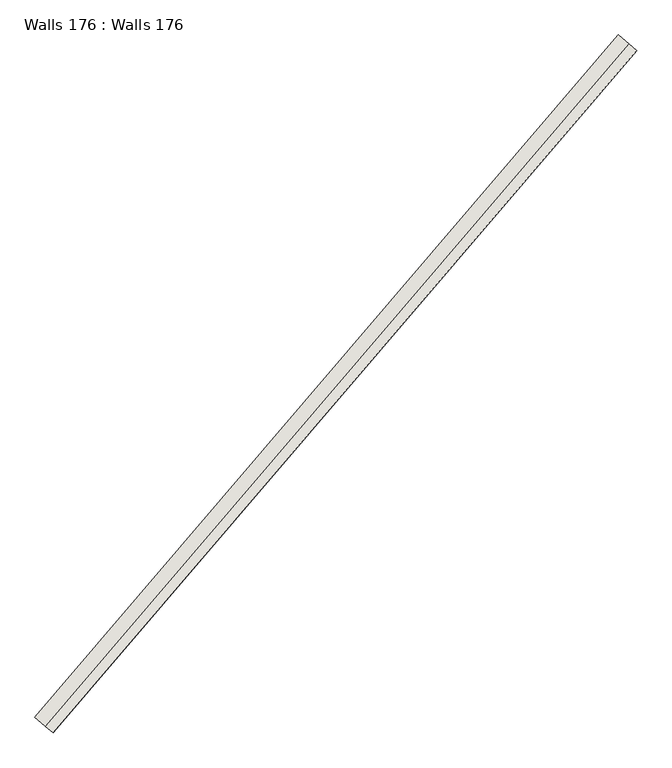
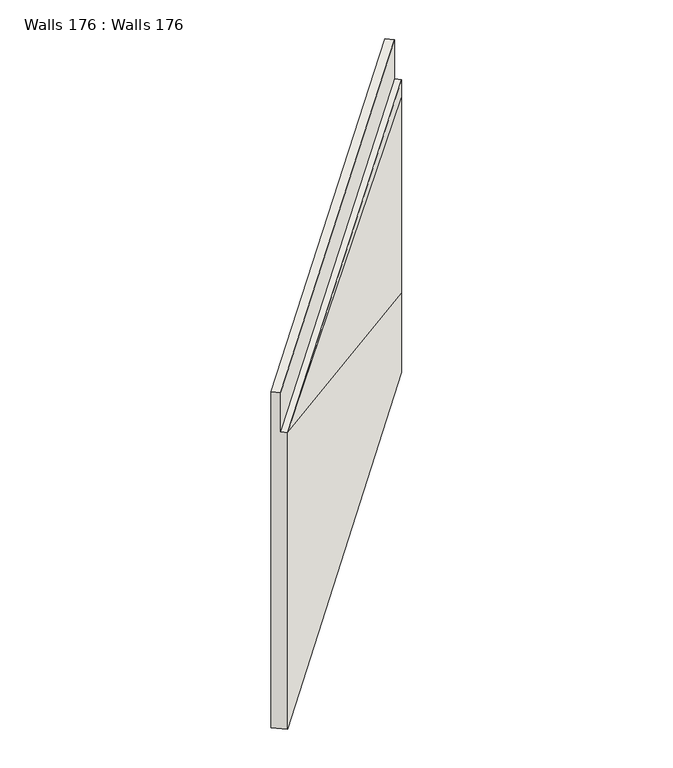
"""IFC4 building model written with IfcOpenShell, lengths in millimetres: wall geometry, Walls 176 : Walls 176."""

from ifc_helpers import new_model, si_unit, frame, origin, place, context, project, spatial, source, transform, mapped, element, save
from ifc_brep_helpers import plane_surface, spline_surface, advanced_brep


def walls_176_walls_176_a7ff1896(model_context):
    return source(origin(), model_context, "Body", "AdvancedBrep", [
        advanced_brep(
        [(149185.6634706, 20272.2288779, 640490.0), (149185.6634706, 20272.2288779, 648060.0), (149071.6988215, 20369.7586618, 648060.0), (149071.6988215, 20369.7586618, 649060.0), (148919.7459559, 20499.7983736, 649060.0), (148919.7459559, 20499.7983736, 640490.0), (157643.8929977, 30155.1621858, 640647.5179984), (157377.9754826, 30382.7316819, 640647.5179984), (157378.0286661, 30382.6861679, 642661.5063563), (157378.0286661, 30382.6861679, 647647.5179985), (157377.6748463, 30382.9889633, 648113.2145854), (157377.6748464, 30382.9889633, 649113.2145854), (157529.6277121, 30252.9492513, 649113.2145854), (157529.6277121, 30252.9492513, 648113.2145854), (157643.5923608, 30155.4194679, 648113.2145854), (157643.9461812, 30155.116672, 647647.5179985), (157643.9082986, 30155.1490915, 642661.5063563)],
        [
            (0, 1),
            (1, 2),
            (2, 3),
            (3, 4),
            (4, 5),
            (5, 0),
            (6, 7),
            (7, 8),
            (8, 9),
            (9, 10),
            (10, 11),
            (11, 12),
            (12, 13),
            (13, 14),
            (14, 15),
            (15, 16),
            (16, 6),
            (16, 1),
            (0, 6),
            (15, 1),
            (14, 1),
            (13, 2),
            (12, 3),
            (11, 4),
            (10, 4),
            (9, 4),
            (8, 5),
            (7, 5),
        ],
        [
            plane_surface(frame((149059.0360827, 20380.5953044, 645870.0), z_axis=(-0.6501985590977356, -0.7597643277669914, 0.0), x_axis=(0.7597643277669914, -0.6501985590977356, 0.0))),
            plane_surface(frame((157502.1797973, 30276.4388967, 645861.7416031), z_axis=(0.6501985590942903, 0.7597643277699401, 0.0), x_axis=(7.597279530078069e-06, -6.501674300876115e-06, 0.9999999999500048))),
            spline_surface(1, 1, [[(157643.8929977, 30155.1621858, 640647.5179984), (149185.6634706, 20272.2288779, 640490.0)], [(157643.9082986, 30155.1490915, 642661.5063563), (149185.6634706, 20272.2288779, 648060.0)]], [2, 2], [2, 2], [0.0, 1.0], [0.0, 1.0]),
            plane_surface(frame((157643.9272399, 30155.1328817, 645154.5121774), z_axis=(0.7597410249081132, -0.6502257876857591, -1.000020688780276e-05), x_axis=(7.5978004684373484e-06, -6.502120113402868e-06, 0.999999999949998))),
            plane_surface(frame((157643.769271, 30155.2680699, 647880.366292), z_axis=(0.7597614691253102, -0.6502011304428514, 0.0010000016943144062), x_axis=(-0.0007597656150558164, 0.0006501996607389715, 0.9999994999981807))),
            plane_surface(frame((157586.6100364, 30204.1843596, 648113.2145854), z_axis=(-0.0026598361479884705, -0.003108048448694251, 0.9999916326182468), x_axis=(-0.7597643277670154, 0.6501985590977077, 0.0))),
            plane_surface(frame((157529.6277121, 30252.9492513, 648613.2145854), z_axis=(0.7597645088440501, -0.6501983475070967, 0.0), x_axis=(0.0, 0.0, 1.0))),
            plane_surface(frame((157453.6512793, 30317.9691073, 649113.2145854), z_axis=(-0.002659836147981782, -0.003108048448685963, 0.9999916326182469), x_axis=(-0.7597643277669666, 0.6501985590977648, 0.0))),
            plane_surface(frame((157377.6748464, 30382.9889633, 648613.2145854), z_axis=(-0.75976450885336, 0.6501983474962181, 0.0), x_axis=(0.0, 0.0, -1.0))),
            plane_surface(frame((157377.8517562, 30382.8375657, 647880.366292), z_axis=(-0.7598114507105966, 0.6501427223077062, -0.00099999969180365), x_axis=(0.0007597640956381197, -0.0006501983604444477, -0.9999995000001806))),
            plane_surface(frame((157378.0286661, 30382.6861679, 645154.5121774), z_axis=(-0.7597412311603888, 0.6502255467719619, 0.0), x_axis=(0.0, 0.0, -1.0))),
            plane_surface(frame((157378.0020744, 30382.7089249, 641654.5121774), z_axis=(-0.7597450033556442, 0.6502211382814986, 3.4756937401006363e-05), x_axis=(-2.6407081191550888e-05, 2.259891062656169e-05, -0.9999999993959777))),
            plane_surface(frame((157510.9342402, 30268.9469339, 640647.5179984), z_axis=(0.00787274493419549, 0.00919939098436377, -0.9999266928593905), x_axis=(0.7597643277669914, -0.6501985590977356, 0.0))),
        ],
        [
            (0, [[1, 2, 3, 4, 5, 6]]),
            (1, [[7, 8, 9, 10, 11, 12, 13, 14, 15, 16, 17]]),
            (2, [[-17, 18, -1, 19]]),
            (3, [[-16, 20, -18]]),
            (4, [[-15, 21, -20]]),
            (5, [[-14, 22, -2, -21]]),
            (6, [[-13, 23, -3, -22]]),
            (7, [[-12, 24, -4, -23]]),
            (8, [[-11, 25, -24]]),
            (9, [[-10, 26, -25]]),
            (10, [[-9, 27, -5, -26]]),
            (11, [[-8, 28, -27]]),
            (12, [[-7, -19, -6, -28]]),
        ],
    ),
    ])


if __name__ == "__main__":
    model = new_model("IFC4")
    model_context = context("Model", 3, world=origin())
    ifc_project = project(units=[si_unit("LENGTHUNIT", "METRE", prefix="MILLI")], contexts=[model_context])
    site = spatial("IfcSite", under=ifc_project)
    building = spatial("IfcBuilding", under=site)
    placement = place(None, origin())
    walls_176_walls_176_shape = walls_176_walls_176_a7ff1896(model_context)
    element("IfcWall", 1, ObjectType="Walls 176 : Walls 176", at=placement, inside=building, context=model_context, shape_type="MappedRepresentation", body=[
        mapped(walls_176_walls_176_shape, transform((0.0, 0.0, 0.0), x_axis=(1.0, 0.0, 0.0), y_axis=(0.0, 1.0, 0.0), z_axis=(0.0, 0.0, 1.0))),
    ])
    save(model, "model.ifc")
